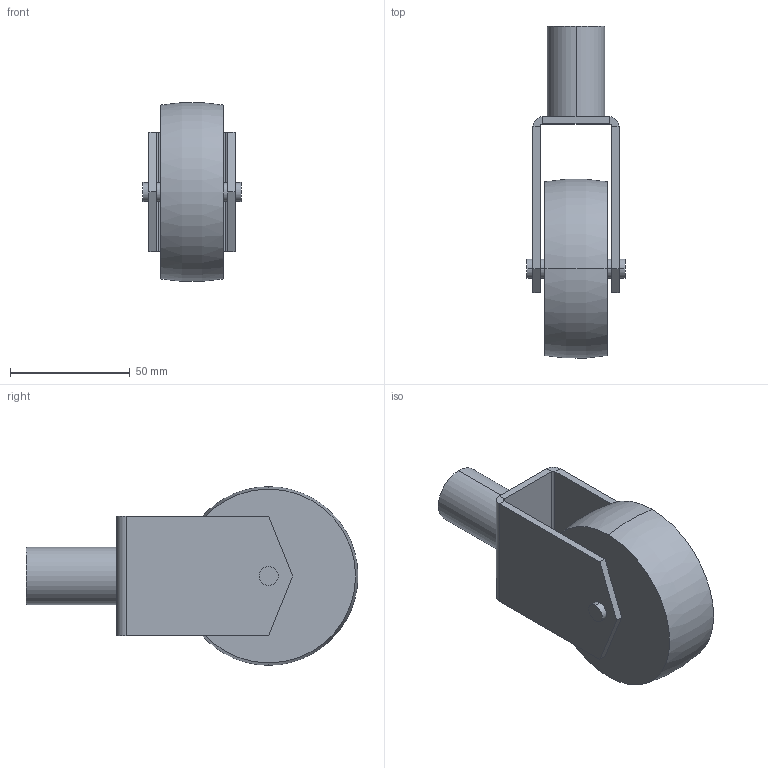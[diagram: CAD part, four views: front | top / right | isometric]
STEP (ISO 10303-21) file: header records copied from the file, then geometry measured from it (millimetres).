
FILE_DESCRIPTION (( 'STEP AP214' ), '1' );
FILE_NAME ('SGKB75NU.step', '2024-02-15T04:33:37', ( 'catia' ), ( 'HP Inc.' ), 'SwSTEP 2.0', 'SolidWorks 2021', '' );
FILE_SCHEMA (( 'AUTOMOTIVE_DESIGN' ));
Length unit declared in the file: millimetre
Products named in the file (1): SGKB75NU
Bounding box: 41 x 138.87 x 74.75 mm (x, y, z)
Volume: 154945.6 mm3; surface area: 35031.8 mm2
Topology: 1 solids, 1 shells, 41 faces, 86 edges, 52 vertices
Faces by surface type: plane 25, cylinder 14, torus 2
Entity records: 1124 total; most frequent: DIRECTION 204, CARTESIAN_POINT 180, ORIENTED_EDGE 172, EDGE_CURVE 86, AXIS2_PLACEMENT_3D 76, VERTEX_POINT 52, VECTOR 52, LINE 52
